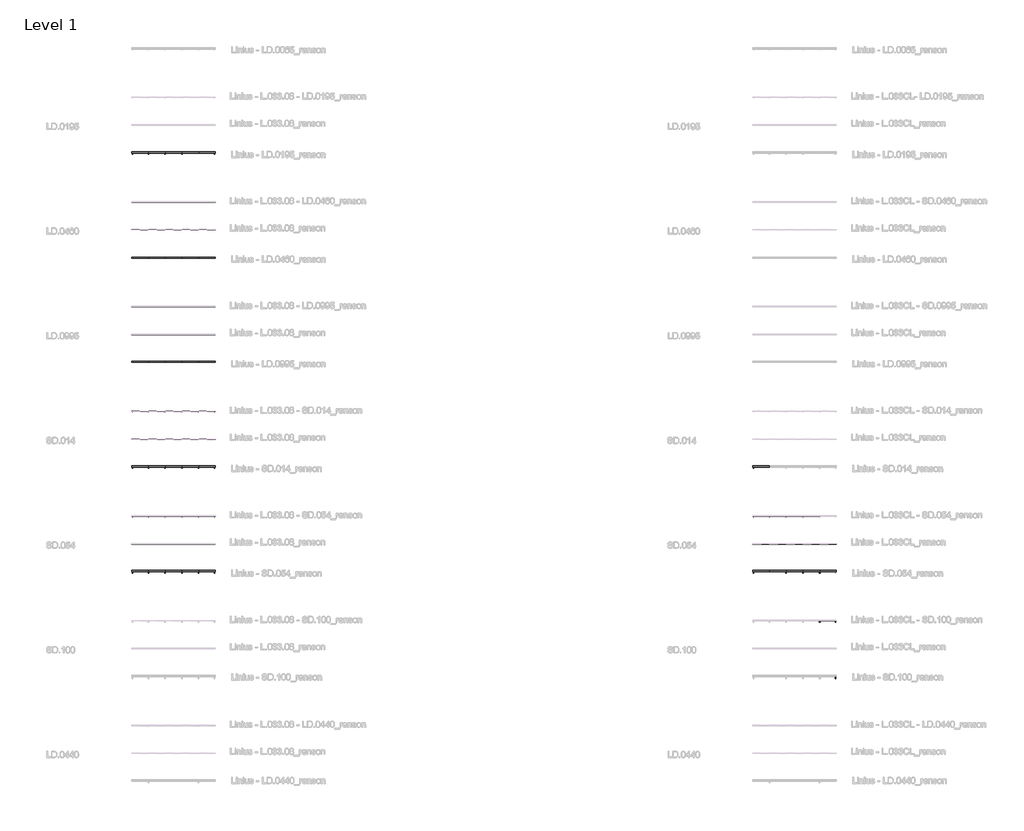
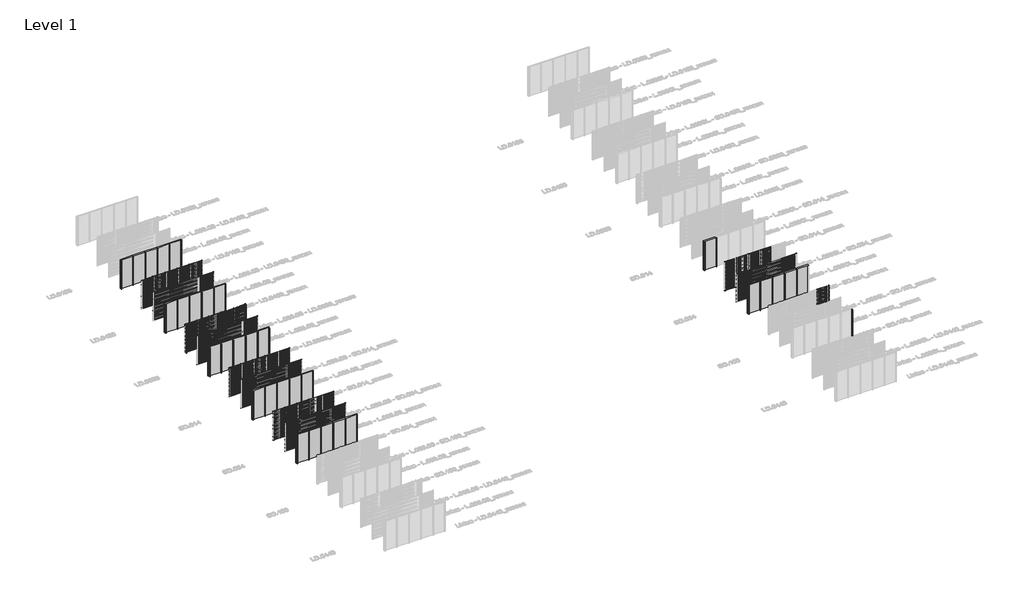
# One storey, part 6 of 507: 68 members, 61 plates.
"""IFC4 building model written with IfcOpenShell, lengths in millimetres."""

from ifc_helpers import new_model, si_unit, origin, origin_with_axes, place, context, project, spatial, polyline, outline, extrude, transform, mapped, element, save
from components import rectangular_mullion_e1f482b2, rectangular_mullion_21e3ddae, rectangular_mullion_fb497acc, rectangular_mullion_3facce28, rectangular_mullion_6cf2c509, rectangular_mullion_8b77bd57, rectangular_mullion_146f339b, rectangular_mullion_aa1047c5, rectangular_mullion_c2c7736a, rectangular_mullion_35b0a916, rectangular_mullion_bd250e2e, rectangular_mullion_7b49c8f1, rectangular_mullion_2b84ad7e, rectangular_mullion_0fd695e7, rectangular_mullion_9b796d85, rectangular_mullion_dfb17e98, rectangular_mullion_8f153c19, empty_system_panel_empty_aabbdda4

model = new_model("IFC4")

# Units and contexts
model_context = context("Model", 3, world=origin())
ifc_project = project(units=[si_unit("LENGTHUNIT", "METRE", prefix="MILLI")], contexts=[model_context])

# Site, building, storey
site = spatial("IfcSite", under=ifc_project)
building = spatial("IfcBuilding", under=site)
storey = spatial("IfcBuildingStorey", under=building, Name="Level 1", Elevation=0.0)

# Members
placement = place(None, origin())
rectangular_mullion_shape = rectangular_mullion_e1f482b2(model_context)
element("IfcMember", 1, ObjectType="Rectangular Mullion : LD.0195_renson", at=placement, inside=storey, context=model_context, shape_type="MappedRepresentation", body=[
    mapped(rectangular_mullion_shape, transform((136366.6208097, 62481.0540136, 0.0), x_axis=(-1.0, 0.0, 0.0), y_axis=(0.0, 1.0, 0.0), z_axis=(0.0, 0.0, -1.0))),
])
element("IfcMember", 2, ObjectType="Rectangular Mullion : LD.0195_renson", at=placement, inside=storey, context=model_context, shape_type="MappedRepresentation", body=[
    mapped(rectangular_mullion_shape, transform((135166.6208099, 62481.0540136, 0.0), x_axis=(-1.0, 0.0, 0.0), y_axis=(0.0, 1.0, 0.0), z_axis=(0.0, 0.0, -1.0))),
])
element("IfcMember", 3, ObjectType="Rectangular Mullion : LD.0195_renson", at=placement, inside=storey, context=model_context, shape_type="MappedRepresentation", body=[
    mapped(rectangular_mullion_shape, transform((137566.6208096, 62481.0540136, 0.0), x_axis=(-1.0, 0.0, 0.0), y_axis=(0.0, 1.0, 0.0), z_axis=(0.0, 0.0, -1.0))),
])
element("IfcMember", 4, ObjectType="Rectangular Mullion : LD.0195_renson", at=placement, inside=storey, context=model_context, shape_type="MappedRepresentation", body=[
    mapped(rectangular_mullion_shape, transform((138766.6208095, 62481.0540136, 0.0), x_axis=(-1.0, 0.0, 0.0), y_axis=(0.0, 1.0, 0.0), z_axis=(0.0, 0.0, -1.0))),
])
rectangular_mullion_2_shape = rectangular_mullion_21e3ddae(model_context)
element("IfcMember", 5, ObjectType="Rectangular Mullion : LD.0460_renson", at=placement, inside=storey, context=model_context, shape_type="MappedRepresentation", body=[
    mapped(rectangular_mullion_2_shape, transform((136366.6208097, 54931.0540136, 0.0), x_axis=(-1.0, 0.0, 0.0), y_axis=(0.0, 1.0, 0.0), z_axis=(0.0, 0.0, -1.0))),
])
element("IfcMember", 6, ObjectType="Rectangular Mullion : LD.0460_renson", at=placement, inside=storey, context=model_context, shape_type="MappedRepresentation", body=[
    mapped(rectangular_mullion_2_shape, transform((135166.6208099, 54931.0540136, 0.0), x_axis=(-1.0, 0.0, 0.0), y_axis=(0.0, 1.0, 0.0), z_axis=(0.0, 0.0, -1.0))),
])
element("IfcMember", 7, ObjectType="Rectangular Mullion : LD.0460_renson", at=placement, inside=storey, context=model_context, shape_type="MappedRepresentation", body=[
    mapped(rectangular_mullion_2_shape, transform((137566.6208096, 54931.0540136, 0.0), x_axis=(-1.0, 0.0, 0.0), y_axis=(0.0, 1.0, 0.0), z_axis=(0.0, 0.0, -1.0))),
])
element("IfcMember", 8, ObjectType="Rectangular Mullion : LD.0460_renson", at=placement, inside=storey, context=model_context, shape_type="MappedRepresentation", body=[
    mapped(rectangular_mullion_2_shape, transform((138766.6208095, 54931.0540136, 0.0), x_axis=(-1.0, 0.0, 0.0), y_axis=(0.0, 1.0, 0.0), z_axis=(0.0, 0.0, -1.0))),
])
element("IfcMember", 9, ObjectType="Rectangular Mullion : LD.0460_renson", at=placement, inside=storey, context=model_context, shape_type="MappedRepresentation", body=[
    mapped(rectangular_mullion_2_shape, transform((138766.6208095, 59024.0540136, 0.0), x_axis=(-1.0, 0.0, 0.0), y_axis=(0.0, 1.0, 0.0), z_axis=(0.0, 0.0, -1.0))),
])
element("IfcMember", 10, ObjectType="Rectangular Mullion : LD.0460_renson", at=placement, inside=storey, context=model_context, shape_type="MappedRepresentation", body=[
    mapped(rectangular_mullion_2_shape, transform((137566.6208096, 59024.0540136, 0.0), x_axis=(-1.0, 0.0, 0.0), y_axis=(0.0, 1.0, 0.0), z_axis=(0.0, 0.0, -1.0))),
])
element("IfcMember", 11, ObjectType="Rectangular Mullion : LD.0460_renson", at=placement, inside=storey, context=model_context, shape_type="MappedRepresentation", body=[
    mapped(rectangular_mullion_2_shape, transform((136366.6208097, 59024.0540136, 0.0), x_axis=(-1.0, 0.0, 0.0), y_axis=(0.0, 1.0, 0.0), z_axis=(0.0, 0.0, -1.0))),
])
element("IfcMember", 12, ObjectType="Rectangular Mullion : LD.0460_renson", at=placement, inside=storey, context=model_context, shape_type="MappedRepresentation", body=[
    mapped(rectangular_mullion_2_shape, transform((135166.6208099, 59024.0540136, 0.0), x_axis=(-1.0, 0.0, 0.0), y_axis=(0.0, 1.0, 0.0), z_axis=(0.0, 0.0, -1.0))),
])
rectangular_mullion_3_shape = rectangular_mullion_fb497acc(model_context)
element("IfcMember", 13, ObjectType="Rectangular Mullion : LD.0995_renson", at=placement, inside=storey, context=model_context, shape_type="MappedRepresentation", body=[
    mapped(rectangular_mullion_3_shape, transform((136366.6208097, 47481.0540136, 0.0), x_axis=(-1.0, 0.0, 0.0), y_axis=(0.0, 1.0, 0.0), z_axis=(0.0, 0.0, -1.0))),
])
element("IfcMember", 14, ObjectType="Rectangular Mullion : LD.0995_renson", at=placement, inside=storey, context=model_context, shape_type="MappedRepresentation", body=[
    mapped(rectangular_mullion_3_shape, transform((135166.6208099, 47481.0540136, 0.0), x_axis=(-1.0, 0.0, 0.0), y_axis=(0.0, 1.0, 0.0), z_axis=(0.0, 0.0, -1.0))),
])
element("IfcMember", 15, ObjectType="Rectangular Mullion : LD.0995_renson", at=placement, inside=storey, context=model_context, shape_type="MappedRepresentation", body=[
    mapped(rectangular_mullion_3_shape, transform((137566.6208096, 47481.0540136, 0.0), x_axis=(-1.0, 0.0, 0.0), y_axis=(0.0, 1.0, 0.0), z_axis=(0.0, 0.0, -1.0))),
])
element("IfcMember", 16, ObjectType="Rectangular Mullion : LD.0995_renson", at=placement, inside=storey, context=model_context, shape_type="MappedRepresentation", body=[
    mapped(rectangular_mullion_3_shape, transform((138766.6208095, 47481.0540136, 0.0), x_axis=(-1.0, 0.0, 0.0), y_axis=(0.0, 1.0, 0.0), z_axis=(0.0, 0.0, -1.0))),
])
element("IfcMember", 17, ObjectType="Rectangular Mullion : LD.0995_renson", at=placement, inside=storey, context=model_context, shape_type="MappedRepresentation", body=[
    mapped(rectangular_mullion_3_shape, transform((138766.6208095, 51524.0540136, 0.0), x_axis=(-1.0, 0.0, 0.0), y_axis=(0.0, 1.0, 0.0), z_axis=(0.0, 0.0, -1.0))),
])
element("IfcMember", 18, ObjectType="Rectangular Mullion : LD.0995_renson", at=placement, inside=storey, context=model_context, shape_type="MappedRepresentation", body=[
    mapped(rectangular_mullion_3_shape, transform((137566.6208096, 51524.0540136, 0.0), x_axis=(-1.0, 0.0, 0.0), y_axis=(0.0, 1.0, 0.0), z_axis=(0.0, 0.0, -1.0))),
])
element("IfcMember", 19, ObjectType="Rectangular Mullion : LD.0995_renson", at=placement, inside=storey, context=model_context, shape_type="MappedRepresentation", body=[
    mapped(rectangular_mullion_3_shape, transform((136366.6208097, 51524.0540136, 0.0), x_axis=(-1.0, 0.0, 0.0), y_axis=(0.0, 1.0, 0.0), z_axis=(0.0, 0.0, -1.0))),
])
element("IfcMember", 20, ObjectType="Rectangular Mullion : LD.0995_renson", at=placement, inside=storey, context=model_context, shape_type="MappedRepresentation", body=[
    mapped(rectangular_mullion_3_shape, transform((135166.6208099, 51524.0540136, 0.0), x_axis=(-1.0, 0.0, 0.0), y_axis=(0.0, 1.0, 0.0), z_axis=(0.0, 0.0, -1.0))),
])
rectangular_mullion_4_shape = rectangular_mullion_3facce28(model_context)
element("IfcMember", 21, ObjectType="Rectangular Mullion : SD.014_renson", at=placement, inside=storey, context=model_context, shape_type="MappedRepresentation", body=[
    mapped(rectangular_mullion_4_shape, transform((136366.6208097, 39981.0540136, 0.0), x_axis=(-1.0, 0.0, 0.0), y_axis=(0.0, 1.0, 0.0), z_axis=(0.0, 0.0, -1.0))),
])
element("IfcMember", 22, ObjectType="Rectangular Mullion : SD.014_renson", at=placement, inside=storey, context=model_context, shape_type="MappedRepresentation", body=[
    mapped(rectangular_mullion_4_shape, transform((135166.6208099, 39981.0540136, 0.0), x_axis=(-1.0, 0.0, 0.0), y_axis=(0.0, 1.0, 0.0), z_axis=(0.0, 0.0, -1.0))),
])
element("IfcMember", 23, ObjectType="Rectangular Mullion : SD.014_renson", at=placement, inside=storey, context=model_context, shape_type="MappedRepresentation", body=[
    mapped(rectangular_mullion_4_shape, transform((137566.6208096, 39981.0540136, 0.0), x_axis=(-1.0, 0.0, 0.0), y_axis=(0.0, 1.0, 0.0), z_axis=(0.0, 0.0, -1.0))),
])
element("IfcMember", 24, ObjectType="Rectangular Mullion : SD.014_renson", at=placement, inside=storey, context=model_context, shape_type="MappedRepresentation", body=[
    mapped(rectangular_mullion_4_shape, transform((138766.6208095, 39981.0540136, 0.0), x_axis=(-1.0, 0.0, 0.0), y_axis=(0.0, 1.0, 0.0), z_axis=(0.0, 0.0, -1.0))),
])
element("IfcMember", 25, ObjectType="Rectangular Mullion : SD.014_renson", at=placement, inside=storey, context=model_context, shape_type="MappedRepresentation", body=[
    mapped(rectangular_mullion_4_shape, transform((138766.6208095, 44024.0540136, 0.0), x_axis=(-1.0, 0.0, 0.0), y_axis=(0.0, 1.0, 0.0), z_axis=(0.0, 0.0, -1.0))),
])
element("IfcMember", 26, ObjectType="Rectangular Mullion : SD.014_renson", at=placement, inside=storey, context=model_context, shape_type="MappedRepresentation", body=[
    mapped(rectangular_mullion_4_shape, transform((137566.6208096, 44024.0540136, 0.0), x_axis=(-1.0, 0.0, 0.0), y_axis=(0.0, 1.0, 0.0), z_axis=(0.0, 0.0, -1.0))),
])
element("IfcMember", 27, ObjectType="Rectangular Mullion : SD.014_renson", at=placement, inside=storey, context=model_context, shape_type="MappedRepresentation", body=[
    mapped(rectangular_mullion_4_shape, transform((136366.6208097, 44024.0540136, 0.0), x_axis=(-1.0, 0.0, 0.0), y_axis=(0.0, 1.0, 0.0), z_axis=(0.0, 0.0, -1.0))),
])
element("IfcMember", 28, ObjectType="Rectangular Mullion : SD.014_renson", at=placement, inside=storey, context=model_context, shape_type="MappedRepresentation", body=[
    mapped(rectangular_mullion_4_shape, transform((135166.6208099, 44024.0540136, 0.0), x_axis=(-1.0, 0.0, 0.0), y_axis=(0.0, 1.0, 0.0), z_axis=(0.0, 0.0, -1.0))),
])
element("IfcMember", 29, ObjectType="Rectangular Mullion : SD.014_renson", at=placement, inside=storey, context=model_context, shape_type="MappedRepresentation", body=[
    mapped(rectangular_mullion_4_shape, transform((179666.6208099, 39981.0540136, 0.0), x_axis=(-1.0, 0.0, 0.0), y_axis=(0.0, 1.0, 0.0), z_axis=(0.0, 0.0, -1.0))),
])
rectangular_mullion_5_shape = rectangular_mullion_6cf2c509(model_context)
element("IfcMember", 30, ObjectType="Rectangular Mullion : SD.054_renson", at=placement, inside=storey, context=model_context, shape_type="MappedRepresentation", body=[
    mapped(rectangular_mullion_5_shape, transform((136366.6208097, 32481.0540136, 0.0), x_axis=(-1.0, 0.0, 0.0), y_axis=(0.0, 1.0, 0.0), z_axis=(0.0, 0.0, -1.0))),
])
element("IfcMember", 31, ObjectType="Rectangular Mullion : SD.054_renson", at=placement, inside=storey, context=model_context, shape_type="MappedRepresentation", body=[
    mapped(rectangular_mullion_5_shape, transform((135166.6208099, 32481.0540136, 0.0), x_axis=(-1.0, 0.0, 0.0), y_axis=(0.0, 1.0, 0.0), z_axis=(0.0, 0.0, -1.0))),
])
element("IfcMember", 32, ObjectType="Rectangular Mullion : SD.054_renson", at=placement, inside=storey, context=model_context, shape_type="MappedRepresentation", body=[
    mapped(rectangular_mullion_5_shape, transform((137566.6208096, 32481.0540136, 0.0), x_axis=(-1.0, 0.0, 0.0), y_axis=(0.0, 1.0, 0.0), z_axis=(0.0, 0.0, -1.0))),
])
element("IfcMember", 33, ObjectType="Rectangular Mullion : SD.054_renson", at=placement, inside=storey, context=model_context, shape_type="MappedRepresentation", body=[
    mapped(rectangular_mullion_5_shape, transform((138766.6208095, 32481.0540136, 0.0), x_axis=(-1.0, 0.0, 0.0), y_axis=(0.0, 1.0, 0.0), z_axis=(0.0, 0.0, -1.0))),
])
element("IfcMember", 34, ObjectType="Rectangular Mullion : SD.054_renson", at=placement, inside=storey, context=model_context, shape_type="MappedRepresentation", body=[
    mapped(rectangular_mullion_5_shape, transform((138766.6208095, 36524.0540136, 0.0), x_axis=(-1.0, 0.0, 0.0), y_axis=(0.0, 1.0, 0.0), z_axis=(0.0, 0.0, -1.0))),
])
element("IfcMember", 35, ObjectType="Rectangular Mullion : SD.054_renson", at=placement, inside=storey, context=model_context, shape_type="MappedRepresentation", body=[
    mapped(rectangular_mullion_5_shape, transform((137566.6208096, 36524.0540136, 0.0), x_axis=(-1.0, 0.0, 0.0), y_axis=(0.0, 1.0, 0.0), z_axis=(0.0, 0.0, -1.0))),
])
element("IfcMember", 36, ObjectType="Rectangular Mullion : SD.054_renson", at=placement, inside=storey, context=model_context, shape_type="MappedRepresentation", body=[
    mapped(rectangular_mullion_5_shape, transform((136366.6208097, 36524.0540136, 0.0), x_axis=(-1.0, 0.0, 0.0), y_axis=(0.0, 1.0, 0.0), z_axis=(0.0, 0.0, -1.0))),
])
element("IfcMember", 37, ObjectType="Rectangular Mullion : SD.054_renson", at=placement, inside=storey, context=model_context, shape_type="MappedRepresentation", body=[
    mapped(rectangular_mullion_5_shape, transform((135166.6208099, 36524.0540136, 0.0), x_axis=(-1.0, 0.0, 0.0), y_axis=(0.0, 1.0, 0.0), z_axis=(0.0, 0.0, -1.0))),
])
element("IfcMember", 38, ObjectType="Rectangular Mullion : SD.054_renson", at=placement, inside=storey, context=model_context, shape_type="MappedRepresentation", body=[
    mapped(rectangular_mullion_5_shape, transform((182066.6208097, 36525.0540136, 0.0), x_axis=(-1.0, 0.0, 0.0), y_axis=(0.0, 1.0, 0.0), z_axis=(0.0, 0.0, -1.0))),
])
element("IfcMember", 39, ObjectType="Rectangular Mullion : SD.054_renson", at=placement, inside=storey, context=model_context, shape_type="MappedRepresentation", body=[
    mapped(rectangular_mullion_5_shape, transform((180866.6208097, 36525.0540136, 0.0), x_axis=(-1.0, 0.0, 0.0), y_axis=(0.0, 1.0, 0.0), z_axis=(0.0, 0.0, -1.0))),
])
element("IfcMember", 40, ObjectType="Rectangular Mullion : SD.054_renson", at=placement, inside=storey, context=model_context, shape_type="MappedRepresentation", body=[
    mapped(rectangular_mullion_5_shape, transform((179666.6208097, 36525.0540136, 0.0), x_axis=(-1.0, 0.0, 0.0), y_axis=(0.0, 1.0, 0.0), z_axis=(0.0, 0.0, -1.0))),
])
element("IfcMember", 41, ObjectType="Rectangular Mullion : SD.054_renson", at=placement, inside=storey, context=model_context, shape_type="MappedRepresentation", body=[
    mapped(rectangular_mullion_5_shape, transform((180866.6208097, 32481.0540136, 0.0), x_axis=(-1.0, 0.0, 0.0), y_axis=(0.0, 1.0, 0.0), z_axis=(0.0, 0.0, -1.0))),
])
element("IfcMember", 42, ObjectType="Rectangular Mullion : SD.054_renson", at=placement, inside=storey, context=model_context, shape_type="MappedRepresentation", body=[
    mapped(rectangular_mullion_5_shape, transform((179666.6208099, 32481.0540136, 0.0), x_axis=(-1.0, 0.0, 0.0), y_axis=(0.0, 1.0, 0.0), z_axis=(0.0, 0.0, -1.0))),
])
element("IfcMember", 43, ObjectType="Rectangular Mullion : SD.054_renson", at=placement, inside=storey, context=model_context, shape_type="MappedRepresentation", body=[
    mapped(rectangular_mullion_5_shape, transform((182066.6208096, 32481.0540136, 0.0), x_axis=(-1.0, 0.0, 0.0), y_axis=(0.0, 1.0, 0.0), z_axis=(0.0, 0.0, -1.0))),
])
element("IfcMember", 44, ObjectType="Rectangular Mullion : SD.054_renson", at=placement, inside=storey, context=model_context, shape_type="MappedRepresentation", body=[
    mapped(rectangular_mullion_5_shape, transform((183266.6208095, 32481.0540136, 0.0), x_axis=(-1.0, 0.0, 0.0), y_axis=(0.0, 1.0, 0.0), z_axis=(0.0, 0.0, -1.0))),
])
rectangular_mullion_6_shape = rectangular_mullion_8b77bd57(model_context)
element("IfcMember", 45, ObjectType="Rectangular Mullion : SD.100_renson", at=placement, inside=storey, context=model_context, shape_type="MappedRepresentation", body=[
    mapped(rectangular_mullion_6_shape, transform((183266.6208097, 29025.0540136, 0.0), x_axis=(-1.0, 0.0, 0.0), y_axis=(0.0, 1.0, 0.0), z_axis=(0.0, 0.0, -1.0))),
])
rectangular_mullion_7_shape = rectangular_mullion_146f339b(model_context)
element("IfcMember", 46, ObjectType="Rectangular Mullion : LD.0195 - left_renson", at=placement, inside=storey, context=model_context, shape_type="MappedRepresentation", body=[
    mapped(rectangular_mullion_7_shape, transform((133966.6208097, 62481.0540136, 0.0), x_axis=(-1.0, 0.0, 0.0), y_axis=(0.0, 1.0, 0.0), z_axis=(0.0, 0.0, -1.0))),
])
rectangular_mullion_8_shape = rectangular_mullion_aa1047c5(model_context)
element("IfcMember", 47, ObjectType="Rectangular Mullion : LD.0195 - right_renson", at=placement, inside=storey, context=model_context, shape_type="MappedRepresentation", body=[
    mapped(rectangular_mullion_8_shape, transform((139966.6208097, 62481.0540136, 3000.0), x_axis=(1.0, 0.0, 0.0), y_axis=(0.0, 1.0, 0.0), z_axis=(0.0, 0.0, 1.0))),
])
rectangular_mullion_9_shape = rectangular_mullion_c2c7736a(model_context)
element("IfcMember", 48, ObjectType="Rectangular Mullion : LD.0460 - left_renson", at=placement, inside=storey, context=model_context, shape_type="MappedRepresentation", body=[
    mapped(rectangular_mullion_9_shape, transform((133966.6208097, 54931.0540136, 0.0), x_axis=(-1.0, 0.0, 0.0), y_axis=(0.0, 1.0, 0.0), z_axis=(0.0, 0.0, -1.0))),
])
element("IfcMember", 49, ObjectType="Rectangular Mullion : LD.0460 - left_renson", at=placement, inside=storey, context=model_context, shape_type="MappedRepresentation", body=[
    mapped(rectangular_mullion_9_shape, transform((133966.6208097, 59024.0540136, 0.0), x_axis=(-1.0, 0.0, 0.0), y_axis=(0.0, 1.0, 0.0), z_axis=(0.0, 0.0, -1.0))),
])
rectangular_mullion_10_shape = rectangular_mullion_35b0a916(model_context)
element("IfcMember", 50, ObjectType="Rectangular Mullion : LD.0460 - right_renson", at=placement, inside=storey, context=model_context, shape_type="MappedRepresentation", body=[
    mapped(rectangular_mullion_10_shape, transform((139966.6208097, 54931.0540136, 3000.0), x_axis=(1.0, 0.0, 0.0), y_axis=(0.0, 1.0, 0.0), z_axis=(0.0, 0.0, 1.0))),
])
element("IfcMember", 51, ObjectType="Rectangular Mullion : LD.0460 - right_renson", at=placement, inside=storey, context=model_context, shape_type="MappedRepresentation", body=[
    mapped(rectangular_mullion_10_shape, transform((139966.6208097, 59024.0540136, 3000.0), x_axis=(1.0, 0.0, 0.0), y_axis=(0.0, 1.0, 0.0), z_axis=(0.0, 0.0, 1.0))),
])
rectangular_mullion_11_shape = rectangular_mullion_bd250e2e(model_context)
element("IfcMember", 52, ObjectType="Rectangular Mullion : LD.0995 - left_renson", at=placement, inside=storey, context=model_context, shape_type="MappedRepresentation", body=[
    mapped(rectangular_mullion_11_shape, transform((133966.6208097, 47481.0540136, 0.0), x_axis=(-1.0, 0.0, 0.0), y_axis=(0.0, 1.0, 0.0), z_axis=(0.0, 0.0, -1.0))),
])
element("IfcMember", 53, ObjectType="Rectangular Mullion : LD.0995 - left_renson", at=placement, inside=storey, context=model_context, shape_type="MappedRepresentation", body=[
    mapped(rectangular_mullion_11_shape, transform((133966.6208097, 51524.0540136, 0.0), x_axis=(-1.0, 0.0, 0.0), y_axis=(0.0, 1.0, 0.0), z_axis=(0.0, 0.0, -1.0))),
])
rectangular_mullion_12_shape = rectangular_mullion_7b49c8f1(model_context)
element("IfcMember", 54, ObjectType="Rectangular Mullion : LD.0995 - right_renson", at=placement, inside=storey, context=model_context, shape_type="MappedRepresentation", body=[
    mapped(rectangular_mullion_12_shape, transform((139966.6208097, 47481.0540136, 3000.0), x_axis=(1.0, 0.0, 0.0), y_axis=(0.0, 1.0, 0.0), z_axis=(0.0, 0.0, 1.0))),
])
element("IfcMember", 55, ObjectType="Rectangular Mullion : LD.0995 - right_renson", at=placement, inside=storey, context=model_context, shape_type="MappedRepresentation", body=[
    mapped(rectangular_mullion_12_shape, transform((139966.6208097, 51524.0540136, 3000.0), x_axis=(1.0, 0.0, 0.0), y_axis=(0.0, 1.0, 0.0), z_axis=(0.0, 0.0, 1.0))),
])
rectangular_mullion_13_shape = rectangular_mullion_2b84ad7e(model_context)
element("IfcMember", 56, ObjectType="Rectangular Mullion : SD.014 - left_renson", at=placement, inside=storey, context=model_context, shape_type="MappedRepresentation", body=[
    mapped(rectangular_mullion_13_shape, transform((133966.6208097, 39981.0540136, 0.0), x_axis=(-1.0, 0.0, 0.0), y_axis=(0.0, 1.0, 0.0), z_axis=(0.0, 0.0, -1.0))),
])
element("IfcMember", 57, ObjectType="Rectangular Mullion : SD.014 - left_renson", at=placement, inside=storey, context=model_context, shape_type="MappedRepresentation", body=[
    mapped(rectangular_mullion_13_shape, transform((133966.6208097, 44024.0540136, 0.0), x_axis=(-1.0, 0.0, 0.0), y_axis=(0.0, 1.0, 0.0), z_axis=(0.0, 0.0, -1.0))),
])
element("IfcMember", 58, ObjectType="Rectangular Mullion : SD.014 - left_renson", at=placement, inside=storey, context=model_context, shape_type="MappedRepresentation", body=[
    mapped(rectangular_mullion_13_shape, transform((178466.6208097, 39981.0540136, 0.0), x_axis=(-1.0, 0.0, 0.0), y_axis=(0.0, 1.0, 0.0), z_axis=(0.0, 0.0, -1.0))),
])
rectangular_mullion_14_shape = rectangular_mullion_0fd695e7(model_context)
element("IfcMember", 59, ObjectType="Rectangular Mullion : SD.014 - right_renson", at=placement, inside=storey, context=model_context, shape_type="MappedRepresentation", body=[
    mapped(rectangular_mullion_14_shape, transform((139966.6208097, 39981.0540136, 3000.0), x_axis=(1.0, 0.0, 0.0), y_axis=(0.0, 1.0, 0.0), z_axis=(0.0, 0.0, 1.0))),
])
element("IfcMember", 60, ObjectType="Rectangular Mullion : SD.014 - right_renson", at=placement, inside=storey, context=model_context, shape_type="MappedRepresentation", body=[
    mapped(rectangular_mullion_14_shape, transform((139966.6208097, 44024.0540136, 3000.0), x_axis=(1.0, 0.0, 0.0), y_axis=(0.0, 1.0, 0.0), z_axis=(0.0, 0.0, 1.0))),
])
rectangular_mullion_15_shape = rectangular_mullion_9b796d85(model_context)
element("IfcMember", 61, ObjectType="Rectangular Mullion : SD.054 - left_renson", at=placement, inside=storey, context=model_context, shape_type="MappedRepresentation", body=[
    mapped(rectangular_mullion_15_shape, transform((133966.6208097, 32481.0540136, 0.0), x_axis=(-1.0, 0.0, 0.0), y_axis=(0.0, 1.0, 0.0), z_axis=(0.0, 0.0, -1.0))),
])
element("IfcMember", 62, ObjectType="Rectangular Mullion : SD.054 - left_renson", at=placement, inside=storey, context=model_context, shape_type="MappedRepresentation", body=[
    mapped(rectangular_mullion_15_shape, transform((133966.6208097, 36524.0540136, 0.0), x_axis=(-1.0, 0.0, 0.0), y_axis=(0.0, 1.0, 0.0), z_axis=(0.0, 0.0, -1.0))),
])
element("IfcMember", 63, ObjectType="Rectangular Mullion : SD.054 - left_renson", at=placement, inside=storey, context=model_context, shape_type="MappedRepresentation", body=[
    mapped(rectangular_mullion_15_shape, transform((178466.6208097, 36525.0540136, 0.0), x_axis=(-1.0, 0.0, 0.0), y_axis=(0.0, 1.0, 0.0), z_axis=(0.0, 0.0, -1.0))),
])
element("IfcMember", 64, ObjectType="Rectangular Mullion : SD.054 - left_renson", at=placement, inside=storey, context=model_context, shape_type="MappedRepresentation", body=[
    mapped(rectangular_mullion_15_shape, transform((178466.6208097, 32481.0540136, 0.0), x_axis=(-1.0, 0.0, 0.0), y_axis=(0.0, 1.0, 0.0), z_axis=(0.0, 0.0, -1.0))),
])
rectangular_mullion_16_shape = rectangular_mullion_dfb17e98(model_context)
element("IfcMember", 65, ObjectType="Rectangular Mullion : SD.054 - right_renson", at=placement, inside=storey, context=model_context, shape_type="MappedRepresentation", body=[
    mapped(rectangular_mullion_16_shape, transform((139966.6208097, 32481.0540136, 3000.0), x_axis=(1.0, 0.0, 0.0), y_axis=(0.0, 1.0, 0.0), z_axis=(0.0, 0.0, 1.0))),
])
element("IfcMember", 66, ObjectType="Rectangular Mullion : SD.054 - right_renson", at=placement, inside=storey, context=model_context, shape_type="MappedRepresentation", body=[
    mapped(rectangular_mullion_16_shape, transform((139966.6208097, 36524.0540136, 3000.0), x_axis=(1.0, 0.0, 0.0), y_axis=(0.0, 1.0, 0.0), z_axis=(0.0, 0.0, 1.0))),
])
rectangular_mullion_17_shape = rectangular_mullion_8f153c19(model_context)
element("IfcMember", 67, ObjectType="Rectangular Mullion : SD.100 - right_renson", at=placement, inside=storey, context=model_context, shape_type="MappedRepresentation", body=[
    mapped(rectangular_mullion_17_shape, transform((184466.6208097, 29025.0540136, 3000.0), x_axis=(1.0, 0.0, 0.0), y_axis=(0.0, 1.0, 0.0), z_axis=(0.0, 0.0, 1.0))),
])
element("IfcMember", 68, ObjectType="Rectangular Mullion : SD.100 - right_renson", at=placement, inside=storey, context=model_context, shape_type="MappedRepresentation", body=[
    mapped(rectangular_mullion_17_shape, transform((184466.6208097, 24981.0540136, 3000.0), x_axis=(1.0, 0.0, 0.0), y_axis=(0.0, 1.0, 0.0), z_axis=(0.0, 0.0, 1.0))),
])

# Plates
element("IfcPlate", 69, ObjectType="Linius - L.033.08_renson", at=placement, inside=storey, context=model_context, shape_type="SweptSolid", body=[
    extrude(outline(polyline([(133966.6208097, 59025.0540136), (135166.6208099, 59025.0540136), (135166.6208099, 59023.0540136), (133966.6208097, 59023.0540136), (133966.6208097, 59025.0540136)])), origin_with_axes(), (0.0, 0.0, 1.0), 3000.0),
])
element("IfcPlate", 70, ObjectType="Linius - L.033.08_renson", at=placement, inside=storey, context=model_context, shape_type="SweptSolid", body=[
    extrude(outline(polyline([(135166.6208099, 59025.0540136), (136366.6208097, 59025.0540136), (136366.6208097, 59023.0540136), (135166.6208099, 59023.0540136), (135166.6208099, 59025.0540136)])), origin_with_axes(), (0.0, 0.0, 1.0), 3000.0),
])
element("IfcPlate", 71, ObjectType="Linius - L.033.08_renson", at=placement, inside=storey, context=model_context, shape_type="SweptSolid", body=[
    extrude(outline(polyline([(136366.6208097, 59025.0540136), (137566.6208096, 59025.0540136), (137566.6208096, 59023.0540136), (136366.6208097, 59023.0540136), (136366.6208097, 59025.0540136)])), origin_with_axes(), (0.0, 0.0, 1.0), 3000.0),
])
element("IfcPlate", 72, ObjectType="Linius - L.033.08_renson", at=placement, inside=storey, context=model_context, shape_type="SweptSolid", body=[
    extrude(outline(polyline([(137566.6208096, 59025.0540136), (138766.6208095, 59025.0540136), (138766.6208095, 59023.0540136), (137566.6208096, 59023.0540136), (137566.6208096, 59025.0540136)])), origin_with_axes(), (0.0, 0.0, 1.0), 3000.0),
])
element("IfcPlate", 73, ObjectType="Linius - L.033.08_renson", at=placement, inside=storey, context=model_context, shape_type="SweptSolid", body=[
    extrude(outline(polyline([(133966.6208097, 57025.0540136), (139966.6208097, 57025.0540136), (139966.6208097, 57023.0540136), (133966.6208097, 57023.0540136), (133966.6208097, 57025.0540136)])), origin_with_axes(), (0.0, 0.0, 1.0), 3000.0),
])
element("IfcPlate", 74, ObjectType="Linius - L.033.08_renson", at=placement, inside=storey, context=model_context, shape_type="SweptSolid", body=[
    extrude(outline(polyline([(133966.6208097, 51525.0540136), (135166.6208099, 51525.0540136), (135166.6208099, 51523.0540136), (133966.6208097, 51523.0540136), (133966.6208097, 51525.0540136)])), origin_with_axes(), (0.0, 0.0, 1.0), 3000.0),
])
element("IfcPlate", 75, ObjectType="Linius - L.033.08_renson", at=placement, inside=storey, context=model_context, shape_type="SweptSolid", body=[
    extrude(outline(polyline([(135166.6208099, 51525.0540136), (136366.6208097, 51525.0540136), (136366.6208097, 51523.0540136), (135166.6208099, 51523.0540136), (135166.6208099, 51525.0540136)])), origin_with_axes(), (0.0, 0.0, 1.0), 3000.0),
])
element("IfcPlate", 76, ObjectType="Linius - L.033.08_renson", at=placement, inside=storey, context=model_context, shape_type="SweptSolid", body=[
    extrude(outline(polyline([(136366.6208097, 51525.0540136), (137566.6208096, 51525.0540136), (137566.6208096, 51523.0540136), (136366.6208097, 51523.0540136), (136366.6208097, 51525.0540136)])), origin_with_axes(), (0.0, 0.0, 1.0), 3000.0),
])
element("IfcPlate", 77, ObjectType="Linius - L.033.08_renson", at=placement, inside=storey, context=model_context, shape_type="SweptSolid", body=[
    extrude(outline(polyline([(137566.6208096, 51525.0540136), (138766.6208095, 51525.0540136), (138766.6208095, 51523.0540136), (137566.6208096, 51523.0540136), (137566.6208096, 51525.0540136)])), origin_with_axes(), (0.0, 0.0, 1.0), 3000.0),
])
element("IfcPlate", 78, ObjectType="Linius - L.033.08_renson", at=placement, inside=storey, context=model_context, shape_type="SweptSolid", body=[
    extrude(outline(polyline([(133966.6208097, 49525.0540136), (139966.6208097, 49525.0540136), (139966.6208097, 49523.0540136), (133966.6208097, 49523.0540136), (133966.6208097, 49525.0540136)])), origin_with_axes(), (0.0, 0.0, 1.0), 3000.0),
])
element("IfcPlate", 79, ObjectType="Linius - L.033.08_renson", at=placement, inside=storey, context=model_context, shape_type="SweptSolid", body=[
    extrude(outline(polyline([(133966.6208097, 44025.0540136), (135166.6208099, 44025.0540136), (135166.6208099, 44023.0540136), (133966.6208097, 44023.0540136), (133966.6208097, 44025.0540136)])), origin_with_axes(), (0.0, 0.0, 1.0), 3000.0),
])
element("IfcPlate", 80, ObjectType="Linius - L.033.08_renson", at=placement, inside=storey, context=model_context, shape_type="SweptSolid", body=[
    extrude(outline(polyline([(135166.6208099, 44025.0540136), (136366.6208097, 44025.0540136), (136366.6208097, 44023.0540136), (135166.6208099, 44023.0540136), (135166.6208099, 44025.0540136)])), origin_with_axes(), (0.0, 0.0, 1.0), 3000.0),
])
element("IfcPlate", 81, ObjectType="Linius - L.033.08_renson", at=placement, inside=storey, context=model_context, shape_type="SweptSolid", body=[
    extrude(outline(polyline([(136366.6208097, 44025.0540136), (137566.6208096, 44025.0540136), (137566.6208096, 44023.0540136), (136366.6208097, 44023.0540136), (136366.6208097, 44025.0540136)])), origin_with_axes(), (0.0, 0.0, 1.0), 3000.0),
])
element("IfcPlate", 82, ObjectType="Linius - L.033.08_renson", at=placement, inside=storey, context=model_context, shape_type="SweptSolid", body=[
    extrude(outline(polyline([(137566.6208096, 44025.0540136), (138766.6208095, 44025.0540136), (138766.6208095, 44023.0540136), (137566.6208096, 44023.0540136), (137566.6208096, 44025.0540136)])), origin_with_axes(), (0.0, 0.0, 1.0), 3000.0),
])
element("IfcPlate", 83, ObjectType="Linius - L.033.08_renson", at=placement, inside=storey, context=model_context, shape_type="SweptSolid", body=[
    extrude(outline(polyline([(133966.6208097, 42025.0540136), (139966.6208097, 42025.0540136), (139966.6208097, 42023.0540136), (133966.6208097, 42023.0540136), (133966.6208097, 42025.0540136)])), origin_with_axes(), (0.0, 0.0, 1.0), 3000.0),
])
element("IfcPlate", 84, ObjectType="Linius - L.033.08_renson", at=placement, inside=storey, context=model_context, shape_type="SweptSolid", body=[
    extrude(outline(polyline([(133966.6208097, 36525.0540136), (135166.6208099, 36525.0540136), (135166.6208099, 36523.0540136), (133966.6208097, 36523.0540136), (133966.6208097, 36525.0540136)])), origin_with_axes(), (0.0, 0.0, 1.0), 3000.0),
])
element("IfcPlate", 85, ObjectType="Linius - L.033.08_renson", at=placement, inside=storey, context=model_context, shape_type="SweptSolid", body=[
    extrude(outline(polyline([(135166.6208099, 36525.0540136), (136366.6208097, 36525.0540136), (136366.6208097, 36523.0540136), (135166.6208099, 36523.0540136), (135166.6208099, 36525.0540136)])), origin_with_axes(), (0.0, 0.0, 1.0), 3000.0),
])
element("IfcPlate", 86, ObjectType="Linius - L.033.08_renson", at=placement, inside=storey, context=model_context, shape_type="SweptSolid", body=[
    extrude(outline(polyline([(136366.6208097, 36525.0540136), (137566.6208096, 36525.0540136), (137566.6208096, 36523.0540136), (136366.6208097, 36523.0540136), (136366.6208097, 36525.0540136)])), origin_with_axes(), (0.0, 0.0, 1.0), 3000.0),
])
element("IfcPlate", 87, ObjectType="Linius - L.033.08_renson", at=placement, inside=storey, context=model_context, shape_type="SweptSolid", body=[
    extrude(outline(polyline([(137566.6208096, 36525.0540136), (138766.6208095, 36525.0540136), (138766.6208095, 36523.0540136), (137566.6208096, 36523.0540136), (137566.6208096, 36525.0540136)])), origin_with_axes(), (0.0, 0.0, 1.0), 3000.0),
])
element("IfcPlate", 88, ObjectType="Linius - L.033.08_renson", at=placement, inside=storey, context=model_context, shape_type="SweptSolid", body=[
    extrude(outline(polyline([(133966.6208097, 34525.0540136), (139966.6208097, 34525.0540136), (139966.6208097, 34523.0540136), (133966.6208097, 34523.0540136), (133966.6208097, 34525.0540136)])), origin_with_axes(), (0.0, 0.0, 1.0), 3000.0),
])
element("IfcPlate", 89, ObjectType="Linius - L.033.08_renson", at=placement, inside=storey, context=model_context, shape_type="SweptSolid", body=[
    extrude(outline(polyline([(138766.6208095, 59025.0540136), (139966.6208097, 59025.0540136), (139966.6208097, 59023.0540136), (138766.6208095, 59023.0540136), (138766.6208095, 59025.0540136)])), origin_with_axes(), (0.0, 0.0, 1.0), 3000.0),
])
element("IfcPlate", 90, ObjectType="Linius - L.033.08_renson", at=placement, inside=storey, context=model_context, shape_type="SweptSolid", body=[
    extrude(outline(polyline([(138766.6208095, 51525.0540136), (139966.6208097, 51525.0540136), (139966.6208097, 51523.0540136), (138766.6208095, 51523.0540136), (138766.6208095, 51525.0540136)])), origin_with_axes(), (0.0, 0.0, 1.0), 3000.0),
])
element("IfcPlate", 91, ObjectType="Linius - L.033.08_renson", at=placement, inside=storey, context=model_context, shape_type="SweptSolid", body=[
    extrude(outline(polyline([(138766.6208095, 44025.0540136), (139966.6208097, 44025.0540136), (139966.6208097, 44023.0540136), (138766.6208095, 44023.0540136), (138766.6208095, 44025.0540136)])), origin_with_axes(), (0.0, 0.0, 1.0), 3000.0),
])
element("IfcPlate", 92, ObjectType="Linius - L.033.08_renson", at=placement, inside=storey, context=model_context, shape_type="SweptSolid", body=[
    extrude(outline(polyline([(138766.6208095, 36525.0540136), (139966.6208097, 36525.0540136), (139966.6208097, 36523.0540136), (138766.6208095, 36523.0540136), (138766.6208095, 36525.0540136)])), origin_with_axes(), (0.0, 0.0, 1.0), 3000.0),
])
element("IfcPlate", 93, ObjectType="Linius - L.033CL_renson", at=placement, inside=storey, context=model_context, shape_type="SweptSolid", body=[
    extrude(outline(polyline([(178466.6208097, 36526.0540136), (179666.6208097, 36526.0540136), (179666.6208097, 36524.0540136), (178466.6208097, 36524.0540136), (178466.6208097, 36526.0540136)])), origin_with_axes(), (0.0, 0.0, 1.0), 3000.0),
])
element("IfcPlate", 94, ObjectType="Linius - L.033CL_renson", at=placement, inside=storey, context=model_context, shape_type="SweptSolid", body=[
    extrude(outline(polyline([(179666.6208097, 36526.0540136), (180866.6208097, 36526.0540136), (180866.6208097, 36524.0540136), (179666.6208097, 36524.0540136), (179666.6208097, 36526.0540136)])), origin_with_axes(), (0.0, 0.0, 1.0), 3000.0),
])
element("IfcPlate", 95, ObjectType="Linius - L.033CL_renson", at=placement, inside=storey, context=model_context, shape_type="SweptSolid", body=[
    extrude(outline(polyline([(180866.6208097, 36526.0540136), (182066.6208097, 36526.0540136), (182066.6208097, 36524.0540136), (180866.6208097, 36524.0540136), (180866.6208097, 36526.0540136)])), origin_with_axes(), (0.0, 0.0, 1.0), 3000.0),
])
element("IfcPlate", 96, ObjectType="Linius - L.033CL_renson", at=placement, inside=storey, context=model_context, shape_type="SweptSolid", body=[
    extrude(outline(polyline([(182066.6208097, 36526.0540136), (183266.6208097, 36526.0540136), (183266.6208097, 36524.0540136), (182066.6208097, 36524.0540136), (182066.6208097, 36526.0540136)])), origin_with_axes(), (0.0, 0.0, 1.0), 3000.0),
])
element("IfcPlate", 97, ObjectType="Linius - L.033CL_renson", at=placement, inside=storey, context=model_context, shape_type="SweptSolid", body=[
    extrude(outline(polyline([(178466.6208097, 34526.0540136), (184466.6208097, 34526.0540136), (184466.6208097, 34524.0540136), (178466.6208097, 34524.0540136), (178466.6208097, 34526.0540136)])), origin_with_axes(), (0.0, 0.0, 1.0), 3000.0),
])
element("IfcPlate", 98, ObjectType="Linius - L.033CL_renson", at=placement, inside=storey, context=model_context, shape_type="SweptSolid", body=[
    extrude(outline(polyline([(183266.6208097, 29026.0540136), (184466.6208097, 29026.0540136), (184466.6208097, 29024.0540136), (183266.6208097, 29024.0540136), (183266.6208097, 29026.0540136)])), origin_with_axes(), (0.0, 0.0, 1.0), 3000.0),
])
empty_system_panel_empty_shape = empty_system_panel_empty_aabbdda4(model_context)
element("IfcPlate", 99, ObjectType="Empty System Panel : Empty", at=placement, inside=storey, context=model_context, shape_type="MappedRepresentation", body=[
    mapped(empty_system_panel_empty_shape, transform((139366.6208096, 62481.0540136, 0.0), x_axis=(-1.0, 0.0, 0.0), y_axis=(0.0, -1.0, 0.0), z_axis=(0.0, 0.0, 1.0))),
])
element("IfcPlate", 100, ObjectType="Empty System Panel : Empty", at=placement, inside=storey, context=model_context, shape_type="MappedRepresentation", body=[
    mapped(empty_system_panel_empty_shape, transform((139366.6208096, 54931.0540136, 0.0), x_axis=(-1.0, 0.0, 0.0), y_axis=(0.0, -1.0, 0.0), z_axis=(0.0, 0.0, 1.0))),
])
element("IfcPlate", 101, ObjectType="Empty System Panel : Empty", at=placement, inside=storey, context=model_context, shape_type="MappedRepresentation", body=[
    mapped(empty_system_panel_empty_shape, transform((139366.6208096, 47481.0540136, 0.0), x_axis=(-1.0, 0.0, 0.0), y_axis=(0.0, -1.0, 0.0), z_axis=(0.0, 0.0, 1.0))),
])
element("IfcPlate", 102, ObjectType="Empty System Panel : Empty", at=placement, inside=storey, context=model_context, shape_type="MappedRepresentation", body=[
    mapped(empty_system_panel_empty_shape, transform((139366.6208096, 39981.0540136, 0.0), x_axis=(-1.0, 0.0, 0.0), y_axis=(0.0, -1.0, 0.0), z_axis=(0.0, 0.0, 1.0))),
])
element("IfcPlate", 103, ObjectType="Empty System Panel : Empty", at=placement, inside=storey, context=model_context, shape_type="MappedRepresentation", body=[
    mapped(empty_system_panel_empty_shape, transform((139366.6208096, 32481.0540136, 0.0), x_axis=(-1.0, 0.0, 0.0), y_axis=(0.0, -1.0, 0.0), z_axis=(0.0, 0.0, 1.0))),
])
element("IfcPlate", 104, ObjectType="Empty System Panel : Empty", at=placement, inside=storey, context=model_context, shape_type="MappedRepresentation", body=[
    mapped(empty_system_panel_empty_shape, transform((135766.6208098, 62481.0540136, 0.0), x_axis=(-1.0, 0.0, 0.0), y_axis=(0.0, -1.0, 0.0), z_axis=(0.0, 0.0, 1.0))),
])
element("IfcPlate", 105, ObjectType="Empty System Panel : Empty", at=placement, inside=storey, context=model_context, shape_type="MappedRepresentation", body=[
    mapped(empty_system_panel_empty_shape, transform((134566.6208098, 62481.0540136, 0.0), x_axis=(-1.0, 0.0, 0.0), y_axis=(0.0, -1.0, 0.0), z_axis=(0.0, 0.0, 1.0))),
])
element("IfcPlate", 106, ObjectType="Empty System Panel : Empty", at=placement, inside=storey, context=model_context, shape_type="MappedRepresentation", body=[
    mapped(empty_system_panel_empty_shape, transform((135766.6208098, 54931.0540136, 0.0), x_axis=(-1.0, 0.0, 0.0), y_axis=(0.0, -1.0, 0.0), z_axis=(0.0, 0.0, 1.0))),
])
element("IfcPlate", 107, ObjectType="Empty System Panel : Empty", at=placement, inside=storey, context=model_context, shape_type="MappedRepresentation", body=[
    mapped(empty_system_panel_empty_shape, transform((134566.6208098, 54931.0540136, 0.0), x_axis=(-1.0, 0.0, 0.0), y_axis=(0.0, -1.0, 0.0), z_axis=(0.0, 0.0, 1.0))),
])
element("IfcPlate", 108, ObjectType="Empty System Panel : Empty", at=placement, inside=storey, context=model_context, shape_type="MappedRepresentation", body=[
    mapped(empty_system_panel_empty_shape, transform((135766.6208098, 47481.0540136, 0.0), x_axis=(-1.0, 0.0, 0.0), y_axis=(0.0, -1.0, 0.0), z_axis=(0.0, 0.0, 1.0))),
])
element("IfcPlate", 109, ObjectType="Empty System Panel : Empty", at=placement, inside=storey, context=model_context, shape_type="MappedRepresentation", body=[
    mapped(empty_system_panel_empty_shape, transform((134566.6208098, 47481.0540136, 0.0), x_axis=(-1.0, 0.0, 0.0), y_axis=(0.0, -1.0, 0.0), z_axis=(0.0, 0.0, 1.0))),
])
element("IfcPlate", 110, ObjectType="Empty System Panel : Empty", at=placement, inside=storey, context=model_context, shape_type="MappedRepresentation", body=[
    mapped(empty_system_panel_empty_shape, transform((135766.6208098, 39981.0540136, 0.0), x_axis=(-1.0, 0.0, 0.0), y_axis=(0.0, -1.0, 0.0), z_axis=(0.0, 0.0, 1.0))),
])
element("IfcPlate", 111, ObjectType="Empty System Panel : Empty", at=placement, inside=storey, context=model_context, shape_type="MappedRepresentation", body=[
    mapped(empty_system_panel_empty_shape, transform((134566.6208098, 39981.0540136, 0.0), x_axis=(-1.0, 0.0, 0.0), y_axis=(0.0, -1.0, 0.0), z_axis=(0.0, 0.0, 1.0))),
])
element("IfcPlate", 112, ObjectType="Empty System Panel : Empty", at=placement, inside=storey, context=model_context, shape_type="MappedRepresentation", body=[
    mapped(empty_system_panel_empty_shape, transform((135766.6208098, 32481.0540136, 0.0), x_axis=(-1.0, 0.0, 0.0), y_axis=(0.0, -1.0, 0.0), z_axis=(0.0, 0.0, 1.0))),
])
element("IfcPlate", 113, ObjectType="Empty System Panel : Empty", at=placement, inside=storey, context=model_context, shape_type="MappedRepresentation", body=[
    mapped(empty_system_panel_empty_shape, transform((134566.6208098, 32481.0540136, 0.0), x_axis=(-1.0, 0.0, 0.0), y_axis=(0.0, -1.0, 0.0), z_axis=(0.0, 0.0, 1.0))),
])
element("IfcPlate", 114, ObjectType="Empty System Panel : Empty", at=placement, inside=storey, context=model_context, shape_type="MappedRepresentation", body=[
    mapped(empty_system_panel_empty_shape, transform((136966.6208097, 32481.0540136, 0.0), x_axis=(-1.0, 0.0, 0.0), y_axis=(0.0, -1.0, 0.0), z_axis=(0.0, 0.0, 1.0))),
])
element("IfcPlate", 115, ObjectType="Empty System Panel : Empty", at=placement, inside=storey, context=model_context, shape_type="MappedRepresentation", body=[
    mapped(empty_system_panel_empty_shape, transform((138166.6208096, 32481.0540136, 0.0), x_axis=(-1.0, 0.0, 0.0), y_axis=(0.0, -1.0, 0.0), z_axis=(0.0, 0.0, 1.0))),
])
element("IfcPlate", 116, ObjectType="Empty System Panel : Empty", at=placement, inside=storey, context=model_context, shape_type="MappedRepresentation", body=[
    mapped(empty_system_panel_empty_shape, transform((136966.6208097, 39981.0540136, 0.0), x_axis=(-1.0, 0.0, 0.0), y_axis=(0.0, -1.0, 0.0), z_axis=(0.0, 0.0, 1.0))),
])
element("IfcPlate", 117, ObjectType="Empty System Panel : Empty", at=placement, inside=storey, context=model_context, shape_type="MappedRepresentation", body=[
    mapped(empty_system_panel_empty_shape, transform((138166.6208096, 39981.0540136, 0.0), x_axis=(-1.0, 0.0, 0.0), y_axis=(0.0, -1.0, 0.0), z_axis=(0.0, 0.0, 1.0))),
])
element("IfcPlate", 118, ObjectType="Empty System Panel : Empty", at=placement, inside=storey, context=model_context, shape_type="MappedRepresentation", body=[
    mapped(empty_system_panel_empty_shape, transform((136966.6208097, 47481.0540136, 0.0), x_axis=(-1.0, 0.0, 0.0), y_axis=(0.0, -1.0, 0.0), z_axis=(0.0, 0.0, 1.0))),
])
element("IfcPlate", 119, ObjectType="Empty System Panel : Empty", at=placement, inside=storey, context=model_context, shape_type="MappedRepresentation", body=[
    mapped(empty_system_panel_empty_shape, transform((138166.6208096, 47481.0540136, 0.0), x_axis=(-1.0, 0.0, 0.0), y_axis=(0.0, -1.0, 0.0), z_axis=(0.0, 0.0, 1.0))),
])
element("IfcPlate", 120, ObjectType="Empty System Panel : Empty", at=placement, inside=storey, context=model_context, shape_type="MappedRepresentation", body=[
    mapped(empty_system_panel_empty_shape, transform((136966.6208097, 54931.0540136, 0.0), x_axis=(-1.0, 0.0, 0.0), y_axis=(0.0, -1.0, 0.0), z_axis=(0.0, 0.0, 1.0))),
])
element("IfcPlate", 121, ObjectType="Empty System Panel : Empty", at=placement, inside=storey, context=model_context, shape_type="MappedRepresentation", body=[
    mapped(empty_system_panel_empty_shape, transform((138166.6208096, 54931.0540136, 0.0), x_axis=(-1.0, 0.0, 0.0), y_axis=(0.0, -1.0, 0.0), z_axis=(0.0, 0.0, 1.0))),
])
element("IfcPlate", 122, ObjectType="Empty System Panel : Empty", at=placement, inside=storey, context=model_context, shape_type="MappedRepresentation", body=[
    mapped(empty_system_panel_empty_shape, transform((136966.6208097, 62481.0540136, 0.0), x_axis=(-1.0, 0.0, 0.0), y_axis=(0.0, -1.0, 0.0), z_axis=(0.0, 0.0, 1.0))),
])
element("IfcPlate", 123, ObjectType="Empty System Panel : Empty", at=placement, inside=storey, context=model_context, shape_type="MappedRepresentation", body=[
    mapped(empty_system_panel_empty_shape, transform((138166.6208096, 62481.0540136, 0.0), x_axis=(-1.0, 0.0, 0.0), y_axis=(0.0, -1.0, 0.0), z_axis=(0.0, 0.0, 1.0))),
])
element("IfcPlate", 124, ObjectType="Empty System Panel : Empty", at=placement, inside=storey, context=model_context, shape_type="MappedRepresentation", body=[
    mapped(empty_system_panel_empty_shape, transform((183866.6208096, 32481.0540136, 0.0), x_axis=(-1.0, 0.0, 0.0), y_axis=(0.0, -1.0, 0.0), z_axis=(0.0, 0.0, 1.0))),
])
element("IfcPlate", 125, ObjectType="Empty System Panel : Empty", at=placement, inside=storey, context=model_context, shape_type="MappedRepresentation", body=[
    mapped(empty_system_panel_empty_shape, transform((179066.6208098, 39981.0540136, 0.0), x_axis=(-1.0, 0.0, 0.0), y_axis=(0.0, -1.0, 0.0), z_axis=(0.0, 0.0, 1.0))),
])
element("IfcPlate", 126, ObjectType="Empty System Panel : Empty", at=placement, inside=storey, context=model_context, shape_type="MappedRepresentation", body=[
    mapped(empty_system_panel_empty_shape, transform((180266.6208098, 32481.0540136, 0.0), x_axis=(-1.0, 0.0, 0.0), y_axis=(0.0, -1.0, 0.0), z_axis=(0.0, 0.0, 1.0))),
])
element("IfcPlate", 127, ObjectType="Empty System Panel : Empty", at=placement, inside=storey, context=model_context, shape_type="MappedRepresentation", body=[
    mapped(empty_system_panel_empty_shape, transform((179066.6208098, 32481.0540136, 0.0), x_axis=(-1.0, 0.0, 0.0), y_axis=(0.0, -1.0, 0.0), z_axis=(0.0, 0.0, 1.0))),
])
element("IfcPlate", 128, ObjectType="Empty System Panel : Empty", at=placement, inside=storey, context=model_context, shape_type="MappedRepresentation", body=[
    mapped(empty_system_panel_empty_shape, transform((181466.6208097, 32481.0540136, 0.0), x_axis=(-1.0, 0.0, 0.0), y_axis=(0.0, -1.0, 0.0), z_axis=(0.0, 0.0, 1.0))),
])
element("IfcPlate", 129, ObjectType="Empty System Panel : Empty", at=placement, inside=storey, context=model_context, shape_type="MappedRepresentation", body=[
    mapped(empty_system_panel_empty_shape, transform((182666.6208096, 32481.0540136, 0.0), x_axis=(-1.0, 0.0, 0.0), y_axis=(0.0, -1.0, 0.0), z_axis=(0.0, 0.0, 1.0))),
])

save(model, "model.ifc")
